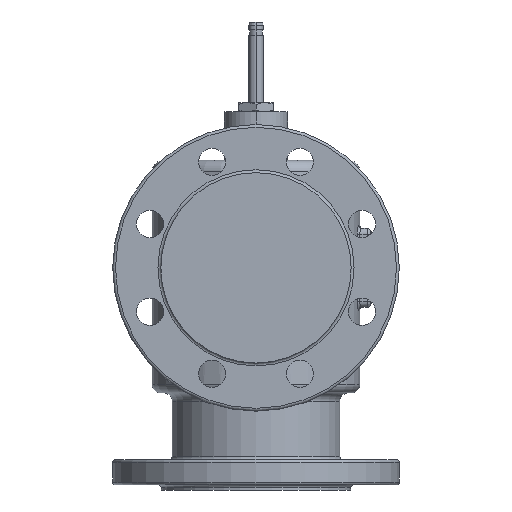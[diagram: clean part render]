
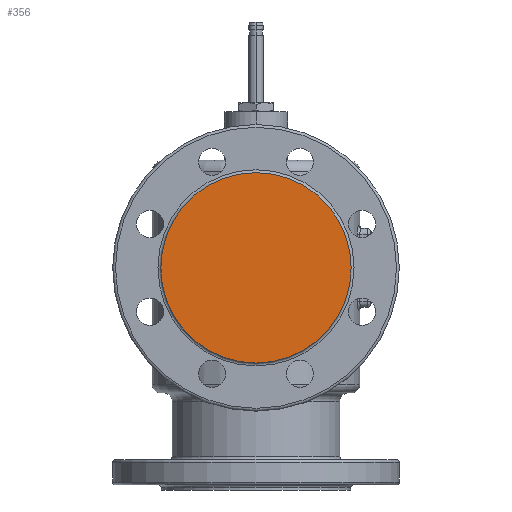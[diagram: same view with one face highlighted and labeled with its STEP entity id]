
A CAD part, left-side view. The second image highlights one B-rep face of the part: STEP entity #356.
In plain terms, the highlighted planar face has unit normal (-1, 0, 0).
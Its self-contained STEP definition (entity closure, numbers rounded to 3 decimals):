
#98=FACE_OUTER_BOUND('',#782,.T.);
#300=PLANE('',#2114);
#356=ADVANCED_FACE('',(#98),#300,.T.);
#782=EDGE_LOOP('',(#1096));
#1096=ORIENTED_EDGE('',*,*,#1721,.F.);
#1530=VERTEX_POINT('',#3518);
#1721=EDGE_CURVE('',#1530,#1530,#1922,.T.);
#1922=CIRCLE('',#2112,66.4);
#2112=AXIS2_PLACEMENT_3D('',#3517,#2534,#2535);
#2114=AXIS2_PLACEMENT_3D('',#3520,#2538,#2539);
#2534=DIRECTION('',(1.,0.,0.));
#2535=DIRECTION('',(0.,0.,-1.));
#2538=DIRECTION('',(-1.,0.,0.));
#2539=DIRECTION('',(0.,0.,-1.));
#3517=CARTESIAN_POINT('',(165.,0.,0.));
#3518=CARTESIAN_POINT('',(165.,0.,-66.4));
#3520=CARTESIAN_POINT('',(165.,0.,0.));
